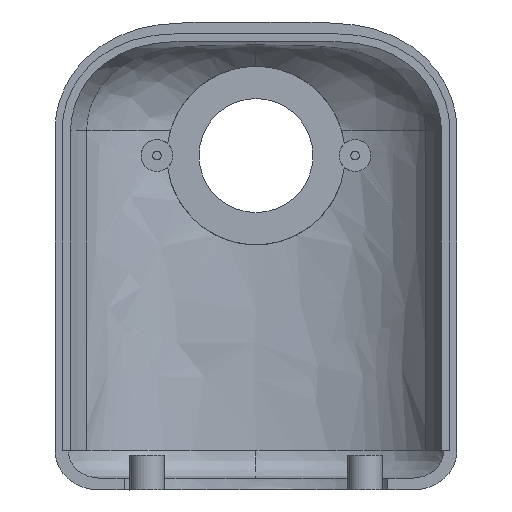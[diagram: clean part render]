
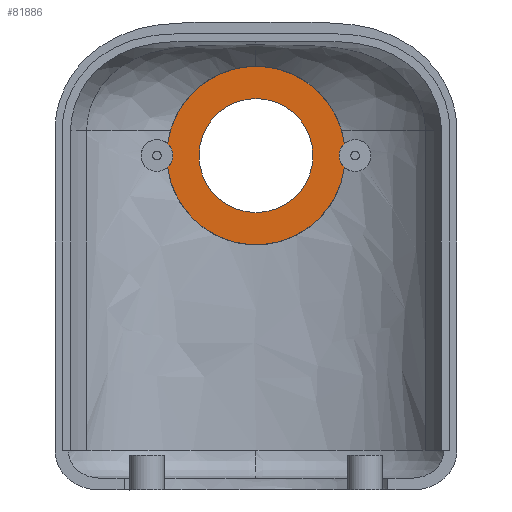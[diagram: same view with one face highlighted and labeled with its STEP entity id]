
A CAD part, left-side view. The second image highlights one B-rep face of the part: STEP entity #81886.
In plain terms, the highlighted planar face has unit normal (-1, 0, 0).
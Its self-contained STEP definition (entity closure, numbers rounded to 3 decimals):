
#51554 = CYLINDRICAL_SURFACE('',#51555,11.5);
#51555 = AXIS2_PLACEMENT_3D('',#51556,#51557,#51558);
#51556 = CARTESIAN_POINT('',(30.,0.,115.));
#51557 = DIRECTION('',(1.,0.,0.));
#51558 = DIRECTION('',(0.,0.,-1.));
#54994 = CYLINDRICAL_SURFACE('',#54995,18.);
#54995 = AXIS2_PLACEMENT_3D('',#54996,#54997,#54998);
#54996 = CARTESIAN_POINT('',(43.,0.,115.));
#54997 = DIRECTION('',(1.,0.,0.));
#54998 = DIRECTION('',(0.,0.,-1.));
#55218 = CYLINDRICAL_SURFACE('',#55219,3.2);
#55219 = AXIS2_PLACEMENT_3D('',#55220,#55221,#55222);
#55220 = CARTESIAN_POINT('',(41.,-20.,115.));
#55221 = DIRECTION('',(1.,0.,0.));
#55222 = DIRECTION('',(0.,0.,-1.));
#56036 = CYLINDRICAL_SURFACE('',#56037,18.);
#56037 = AXIS2_PLACEMENT_3D('',#56038,#56039,#56040);
#56038 = CARTESIAN_POINT('',(43.,0.,115.));
#56039 = DIRECTION('',(1.,0.,0.));
#56040 = DIRECTION('',(0.,0.,-1.));
#56422 = CYLINDRICAL_SURFACE('',#56423,3.2);
#56423 = AXIS2_PLACEMENT_3D('',#56424,#56425,#56426);
#56424 = CARTESIAN_POINT('',(41.,20.,115.));
#56425 = DIRECTION('',(1.,0.,0.));
#56426 = DIRECTION('',(0.,0.,-1.));
#70138 = VERTEX_POINT('',#70139);
#70139 = CARTESIAN_POINT('',(43.,0.,103.5));
#70160 = EDGE_CURVE('',#70138,#70138,#70161,.T.);
#70161 = SURFACE_CURVE('',#70162,(#70167,#70174),.PCURVE_S1.);
#70162 = CIRCLE('',#70163,11.5);
#70163 = AXIS2_PLACEMENT_3D('',#70164,#70165,#70166);
#70164 = CARTESIAN_POINT('',(43.,0.,115.));
#70165 = DIRECTION('',(1.,0.,0.));
#70166 = DIRECTION('',(0.,0.,-1.));
#70167 = PCURVE('',#51554,#70168);
#70168 = DEFINITIONAL_REPRESENTATION('',(#70169),#70173);
#70169 = LINE('',#70170,#70171);
#70170 = CARTESIAN_POINT('',(0.,13.));
#70171 = VECTOR('',#70172,1.);
#70172 = DIRECTION('',(1.,0.));
#70173 = ( GEOMETRIC_REPRESENTATION_CONTEXT(2) 
PARAMETRIC_REPRESENTATION_CONTEXT() REPRESENTATION_CONTEXT('2D SPACE',''
  ) );
#70174 = PCURVE('',#70175,#70180);
#70175 = PLANE('',#70176);
#70176 = AXIS2_PLACEMENT_3D('',#70177,#70178,#70179);
#70177 = CARTESIAN_POINT('',(43.,0.,115.));
#70178 = DIRECTION('',(1.,0.,0.));
#70179 = DIRECTION('',(0.,0.,-1.));
#70180 = DEFINITIONAL_REPRESENTATION('',(#70181),#70185);
#70181 = CIRCLE('',#70182,11.5);
#70182 = AXIS2_PLACEMENT_2D('',#70183,#70184);
#70183 = CARTESIAN_POINT('',(0.,0.));
#70184 = DIRECTION('',(1.,0.));
#70185 = ( GEOMETRIC_REPRESENTATION_CONTEXT(2) 
PARAMETRIC_REPRESENTATION_CONTEXT() REPRESENTATION_CONTEXT('2D SPACE',''
  ) );
#75471 = VERTEX_POINT('',#75472);
#75472 = CARTESIAN_POINT('',(43.,17.844,117.365));
#75491 = EDGE_CURVE('',#75471,#75492,#75494,.T.);
#75492 = VERTEX_POINT('',#75493);
#75493 = CARTESIAN_POINT('',(43.,-17.844,117.365));
#75494 = SURFACE_CURVE('',#75495,(#75500,#75507),.PCURVE_S1.);
#75495 = CIRCLE('',#75496,18.);
#75496 = AXIS2_PLACEMENT_3D('',#75497,#75498,#75499);
#75497 = CARTESIAN_POINT('',(43.,0.,115.));
#75498 = DIRECTION('',(1.,0.,0.));
#75499 = DIRECTION('',(0.,-0.991,-0.131));
#75500 = PCURVE('',#54994,#75501);
#75501 = DEFINITIONAL_REPRESENTATION('',(#75502),#75506);
#75502 = LINE('',#75503,#75504);
#75503 = CARTESIAN_POINT('',(4.844,0.));
#75504 = VECTOR('',#75505,1.);
#75505 = DIRECTION('',(1.,0.));
#75506 = ( GEOMETRIC_REPRESENTATION_CONTEXT(2) 
PARAMETRIC_REPRESENTATION_CONTEXT() REPRESENTATION_CONTEXT('2D SPACE',''
  ) );
#75507 = PCURVE('',#70175,#75508);
#75508 = DEFINITIONAL_REPRESENTATION('',(#75509),#75513);
#75509 = CIRCLE('',#75510,18.);
#75510 = AXIS2_PLACEMENT_2D('',#75511,#75512);
#75511 = CARTESIAN_POINT('',(0.,0.));
#75512 = DIRECTION('',(0.131,-0.991));
#75513 = ( GEOMETRIC_REPRESENTATION_CONTEXT(2) 
PARAMETRIC_REPRESENTATION_CONTEXT() REPRESENTATION_CONTEXT('2D SPACE',''
  ) );
#76151 = VERTEX_POINT('',#76152);
#76152 = CARTESIAN_POINT('',(43.,17.844,112.635));
#76171 = EDGE_CURVE('',#75471,#76151,#76172,.T.);
#76172 = SURFACE_CURVE('',#76173,(#76178,#76185),.PCURVE_S1.);
#76173 = CIRCLE('',#76174,3.2);
#76174 = AXIS2_PLACEMENT_3D('',#76175,#76176,#76177);
#76175 = CARTESIAN_POINT('',(43.,20.,115.));
#76176 = DIRECTION('',(1.,0.,0.));
#76177 = DIRECTION('',(0.,0.,-1.));
#76178 = PCURVE('',#56422,#76179);
#76179 = DEFINITIONAL_REPRESENTATION('',(#76180),#76184);
#76180 = LINE('',#76181,#76182);
#76181 = CARTESIAN_POINT('',(0.,2.));
#76182 = VECTOR('',#76183,1.);
#76183 = DIRECTION('',(1.,0.));
#76184 = ( GEOMETRIC_REPRESENTATION_CONTEXT(2) 
PARAMETRIC_REPRESENTATION_CONTEXT() REPRESENTATION_CONTEXT('2D SPACE',''
  ) );
#76185 = PCURVE('',#70175,#76186);
#76186 = DEFINITIONAL_REPRESENTATION('',(#76187),#76191);
#76187 = CIRCLE('',#76188,3.2);
#76188 = AXIS2_PLACEMENT_2D('',#76189,#76190);
#76189 = CARTESIAN_POINT('',(0.,20.));
#76190 = DIRECTION('',(1.,0.));
#76191 = ( GEOMETRIC_REPRESENTATION_CONTEXT(2) 
PARAMETRIC_REPRESENTATION_CONTEXT() REPRESENTATION_CONTEXT('2D SPACE',''
  ) );
#76199 = VERTEX_POINT('',#76200);
#76200 = CARTESIAN_POINT('',(43.,-17.844,112.635));
#76219 = EDGE_CURVE('',#76199,#76151,#76220,.T.);
#76220 = SURFACE_CURVE('',#76221,(#76226,#76233),.PCURVE_S1.);
#76221 = CIRCLE('',#76222,18.);
#76222 = AXIS2_PLACEMENT_3D('',#76223,#76224,#76225);
#76223 = CARTESIAN_POINT('',(43.,0.,115.));
#76224 = DIRECTION('',(1.,0.,0.));
#76225 = DIRECTION('',(0.,-0.991,-0.131));
#76226 = PCURVE('',#56036,#76227);
#76227 = DEFINITIONAL_REPRESENTATION('',(#76228),#76232);
#76228 = LINE('',#76229,#76230);
#76229 = CARTESIAN_POINT('',(4.844,0.));
#76230 = VECTOR('',#76231,1.);
#76231 = DIRECTION('',(1.,0.));
#76232 = ( GEOMETRIC_REPRESENTATION_CONTEXT(2) 
PARAMETRIC_REPRESENTATION_CONTEXT() REPRESENTATION_CONTEXT('2D SPACE',''
  ) );
#76233 = PCURVE('',#70175,#76234);
#76234 = DEFINITIONAL_REPRESENTATION('',(#76235),#76239);
#76235 = CIRCLE('',#76236,18.);
#76236 = AXIS2_PLACEMENT_2D('',#76237,#76238);
#76237 = CARTESIAN_POINT('',(0.,0.));
#76238 = DIRECTION('',(0.131,-0.991));
#76239 = ( GEOMETRIC_REPRESENTATION_CONTEXT(2) 
PARAMETRIC_REPRESENTATION_CONTEXT() REPRESENTATION_CONTEXT('2D SPACE',''
  ) );
#76299 = EDGE_CURVE('',#76199,#75492,#76300,.T.);
#76300 = SURFACE_CURVE('',#76301,(#76306,#76313),.PCURVE_S1.);
#76301 = CIRCLE('',#76302,3.2);
#76302 = AXIS2_PLACEMENT_3D('',#76303,#76304,#76305);
#76303 = CARTESIAN_POINT('',(43.,-20.,115.));
#76304 = DIRECTION('',(1.,0.,0.));
#76305 = DIRECTION('',(0.,0.,-1.));
#76306 = PCURVE('',#55218,#76307);
#76307 = DEFINITIONAL_REPRESENTATION('',(#76308),#76312);
#76308 = LINE('',#76309,#76310);
#76309 = CARTESIAN_POINT('',(0.,2.));
#76310 = VECTOR('',#76311,1.);
#76311 = DIRECTION('',(1.,0.));
#76312 = ( GEOMETRIC_REPRESENTATION_CONTEXT(2) 
PARAMETRIC_REPRESENTATION_CONTEXT() REPRESENTATION_CONTEXT('2D SPACE',''
  ) );
#76313 = PCURVE('',#70175,#76314);
#76314 = DEFINITIONAL_REPRESENTATION('',(#76315),#76319);
#76315 = CIRCLE('',#76316,3.2);
#76316 = AXIS2_PLACEMENT_2D('',#76317,#76318);
#76317 = CARTESIAN_POINT('',(0.,-20.));
#76318 = DIRECTION('',(1.,0.));
#76319 = ( GEOMETRIC_REPRESENTATION_CONTEXT(2) 
PARAMETRIC_REPRESENTATION_CONTEXT() REPRESENTATION_CONTEXT('2D SPACE',''
  ) );
#81886 = ADVANCED_FACE('',(#81887,#81893),#70175,.F.);
#81887 = FACE_BOUND('',#81888,.F.);
#81888 = EDGE_LOOP('',(#81889,#81890,#81891,#81892));
#81889 = ORIENTED_EDGE('',*,*,#76299,.F.);
#81890 = ORIENTED_EDGE('',*,*,#76219,.T.);
#81891 = ORIENTED_EDGE('',*,*,#76171,.F.);
#81892 = ORIENTED_EDGE('',*,*,#75491,.T.);
#81893 = FACE_BOUND('',#81894,.F.);
#81894 = EDGE_LOOP('',(#81895));
#81895 = ORIENTED_EDGE('',*,*,#70160,.F.);
